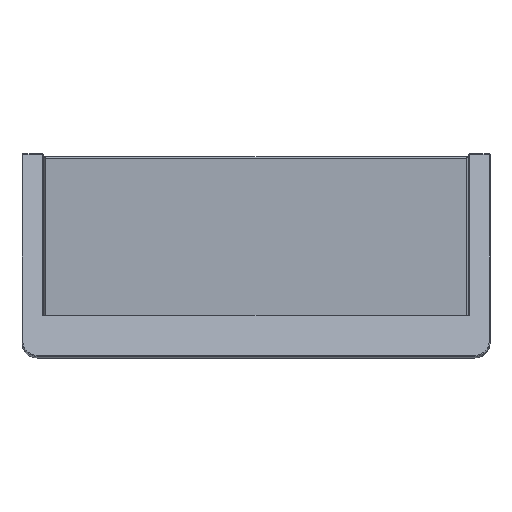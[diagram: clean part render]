
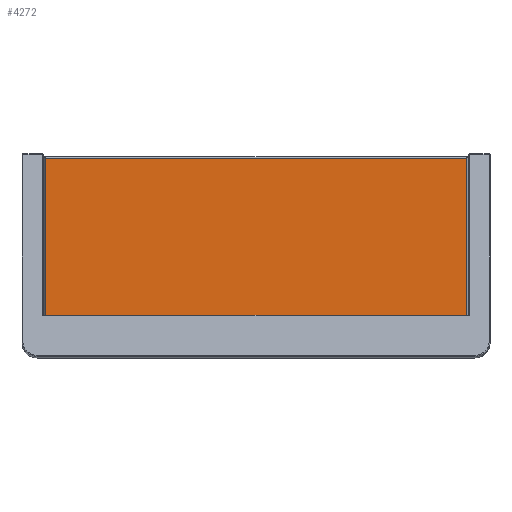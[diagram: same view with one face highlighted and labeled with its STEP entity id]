
A CAD part, top view. The second image highlights one B-rep face of the part: STEP entity #4272.
In plain terms, the highlighted planar face has unit normal (0, 0, 1).
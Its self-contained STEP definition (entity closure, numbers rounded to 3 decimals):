
#1505=DIRECTION('',(0.,-1.,0.));
#1506=VECTOR('',#1505,383.);
#1507=CARTESIAN_POINT('',(-495.5,191.5,46.5));
#1508=LINE('',#1507,#1506);
#1512=DIRECTION('',(-1.,0.,0.));
#1513=VECTOR('',#1512,991.);
#1514=CARTESIAN_POINT('',(495.5,191.5,46.5));
#1515=LINE('',#1514,#1513);
#1519=DIRECTION('',(0.,1.,0.));
#1520=VECTOR('',#1519,383.);
#1521=CARTESIAN_POINT('',(495.5,-191.5,46.5));
#1522=LINE('',#1521,#1520);
#1526=DIRECTION('',(1.,0.,0.));
#1527=VECTOR('',#1526,991.);
#1528=CARTESIAN_POINT('',(-495.5,-191.5,46.5));
#1529=LINE('',#1528,#1527);
#2774=CARTESIAN_POINT('',(-495.5,191.5,46.5));
#2775=CARTESIAN_POINT('',(-495.5,-191.5,46.5));
#2776=VERTEX_POINT('',#2774);
#2777=VERTEX_POINT('',#2775);
#2782=CARTESIAN_POINT('',(495.5,-191.5,46.5));
#2783=VERTEX_POINT('',#2782);
#2784=CARTESIAN_POINT('',(495.5,191.5,46.5));
#2785=VERTEX_POINT('',#2784);
#4258=CARTESIAN_POINT('',(0.,0.,46.5));
#4259=DIRECTION('',(0.,0.,1.));
#4260=DIRECTION('',(1.,0.,0.));
#4261=AXIS2_PLACEMENT_3D('',#4258,#4259,#4260);
#4262=PLANE('',#4261);
#4264=ORIENTED_EDGE('',*,*,#4263,.F.);
#4266=ORIENTED_EDGE('',*,*,#4265,.F.);
#4267=ORIENTED_EDGE('',*,*,#4248,.F.);
#4269=ORIENTED_EDGE('',*,*,#4268,.F.);
#4270=EDGE_LOOP('',(#4264,#4266,#4267,#4269));
#4271=FACE_OUTER_BOUND('',#4270,.F.);
#4248=EDGE_CURVE('',#2783,#2785,#1522,.T.);
#4263=EDGE_CURVE('',#2776,#2777,#1508,.T.);
#4265=EDGE_CURVE('',#2785,#2776,#1515,.T.);
#4268=EDGE_CURVE('',#2777,#2783,#1529,.T.);
#4272=ADVANCED_FACE('',(#4271),#4262,.T.);
